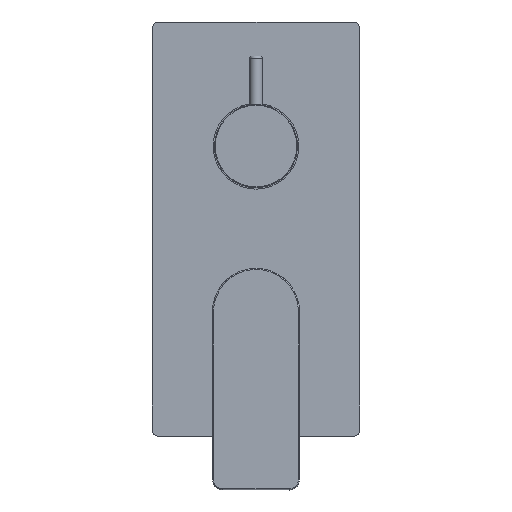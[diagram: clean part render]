
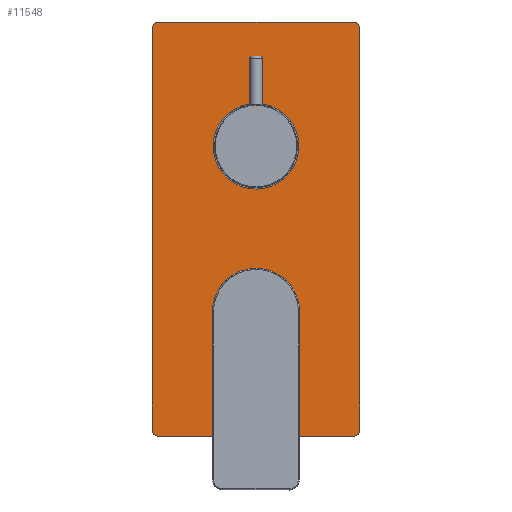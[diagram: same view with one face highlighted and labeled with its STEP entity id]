
A CAD part, top view. The second image highlights one B-rep face of the part: STEP entity #11548.
In plain terms, the highlighted planar face has unit normal (0, 0, 1).
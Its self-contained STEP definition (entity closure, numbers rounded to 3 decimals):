
#119 = CIRCLE ( 'NONE', #23812, 3. ) ;
#164 = DIRECTION ( 'NONE',  ( 1., 0., 0. ) ) ;
#198 = AXIS2_PLACEMENT_3D ( 'NONE', #11813, #3453, #22251 ) ;
#242 = AXIS2_PLACEMENT_3D ( 'NONE', #21033, #13211, #30085 ) ;
#1034 = FACE_OUTER_BOUND ( 'NONE', #8848, .T. ) ;
#1044 = CARTESIAN_POINT ( 'NONE',  ( -100., -50., 2. ) ) ;
#1346 = EDGE_CURVE ( 'NONE', #7636, #16303, #29182, .T. ) ;
#1487 = CARTESIAN_POINT ( 'NONE',  ( 100., -50., 2. ) ) ;
#1982 = AXIS2_PLACEMENT_3D ( 'NONE', #31303, #13385, #2077 ) ;
#2077 = DIRECTION ( 'NONE',  ( 1., 0., 0. ) ) ;
#2204 = VECTOR ( 'NONE', #11767, 1000. ) ;
#2275 = DIRECTION ( 'NONE',  ( 1., 0., 0. ) ) ;
#2468 = ORIENTED_EDGE ( 'NONE', *, *, #7712, .T. ) ;
#2810 = ORIENTED_EDGE ( 'NONE', *, *, #23455, .T. ) ;
#3174 = CARTESIAN_POINT ( 'NONE',  ( 100., 47., 2. ) ) ;
#3363 = AXIS2_PLACEMENT_3D ( 'NONE', #5016, #20685, #164 ) ;
#3453 = DIRECTION ( 'NONE',  ( 0., 0., 1. ) ) ;
#4903 = CARTESIAN_POINT ( 'NONE',  ( -97., 50., 2. ) ) ;
#4993 = CARTESIAN_POINT ( 'NONE',  ( 60.7, 0., 2. ) ) ;
#5016 = CARTESIAN_POINT ( 'NONE',  ( -40., 0., 2. ) ) ;
#5190 = EDGE_CURVE ( 'NONE', #30223, #7636, #15054, .T. ) ;
#6437 = CIRCLE ( 'NONE', #16459, 3. ) ;
#6770 = DIRECTION ( 'NONE',  ( 1., 0., 0. ) ) ;
#7636 = VERTEX_POINT ( 'NONE', #3174 ) ;
#7712 = EDGE_CURVE ( 'NONE', #22527, #13956, #6437, .T. ) ;
#7727 = CARTESIAN_POINT ( 'NONE',  ( -19.3, 0., 2. ) ) ;
#7740 = DIRECTION ( 'NONE',  ( 0., 0., 1. ) ) ;
#7893 = CARTESIAN_POINT ( 'NONE',  ( -100., 47., 2. ) ) ;
#8071 = EDGE_CURVE ( 'NONE', #15617, #15306, #16483, .T. ) ;
#8848 = EDGE_LOOP ( 'NONE', ( #28386, #2468, #2810, #15278, #18150, #10150, #31381, #32450 ) ) ;
#8852 = FACE_BOUND ( 'NONE', #22860, .T. ) ;
#9380 = CARTESIAN_POINT ( 'NONE',  ( 40., 0., 2. ) ) ;
#9466 = EDGE_CURVE ( 'NONE', #30162, #9608, #11829, .T. ) ;
#9505 = VERTEX_POINT ( 'NONE', #14612 ) ;
#9608 = VERTEX_POINT ( 'NONE', #28155 ) ;
#9827 = DIRECTION ( 'NONE',  ( 1., 0., 0. ) ) ;
#10150 = ORIENTED_EDGE ( 'NONE', *, *, #18987, .T. ) ;
#10695 = ORIENTED_EDGE ( 'NONE', *, *, #9466, .F. ) ;
#11548 = ADVANCED_FACE ( 'NONE', ( #8852, #1034, #27106 ), #27285, .T. ) ;
#11649 = DIRECTION ( 'NONE',  ( 0., -1., 0. ) ) ;
#11712 = CARTESIAN_POINT ( 'NONE',  ( -60.7, 0., 2. ) ) ;
#11767 = DIRECTION ( 'NONE',  ( 0., 1., 0. ) ) ;
#11813 = CARTESIAN_POINT ( 'NONE',  ( 0., 0., 2. ) ) ;
#11829 = CIRCLE ( 'NONE', #13495, 20.7 ) ;
#12429 = VERTEX_POINT ( 'NONE', #28214 ) ;
#12523 = LINE ( 'NONE', #15136, #27206 ) ;
#13146 = AXIS2_PLACEMENT_3D ( 'NONE', #16705, #29923, #21579 ) ;
#13211 = DIRECTION ( 'NONE',  ( 0., 0., 1. ) ) ;
#13385 = DIRECTION ( 'NONE',  ( 0., 0., 1. ) ) ;
#13495 = AXIS2_PLACEMENT_3D ( 'NONE', #9380, #22605, #6770 ) ;
#13956 = VERTEX_POINT ( 'NONE', #7893 ) ;
#14612 = CARTESIAN_POINT ( 'NONE',  ( -100., -47., 2. ) ) ;
#14807 = CARTESIAN_POINT ( 'NONE',  ( 40., 0., 2. ) ) ;
#15054 = LINE ( 'NONE', #30211, #2204 ) ;
#15136 = CARTESIAN_POINT ( 'NONE',  ( 100., 50., 2. ) ) ;
#15278 = ORIENTED_EDGE ( 'NONE', *, *, #30579, .T. ) ;
#15306 = VERTEX_POINT ( 'NONE', #7727 ) ;
#15617 = VERTEX_POINT ( 'NONE', #11712 ) ;
#16303 = VERTEX_POINT ( 'NONE', #29376 ) ;
#16408 = EDGE_CURVE ( 'NONE', #12429, #28197, #29899, .T. ) ;
#16417 = EDGE_LOOP ( 'NONE', ( #25591, #10695 ) ) ;
#16459 = AXIS2_PLACEMENT_3D ( 'NONE', #24219, #25759, #30974 ) ;
#16483 = CIRCLE ( 'NONE', #13146, 20.7 ) ;
#16705 = CARTESIAN_POINT ( 'NONE',  ( -40., 0., 2. ) ) ;
#16757 = VECTOR ( 'NONE', #11649, 1000. ) ;
#17990 = CIRCLE ( 'NONE', #242, 3. ) ;
#18150 = ORIENTED_EDGE ( 'NONE', *, *, #16408, .T. ) ;
#18348 = DIRECTION ( 'NONE',  ( 1., 0., 0. ) ) ;
#18987 = EDGE_CURVE ( 'NONE', #28197, #30223, #17990, .T. ) ;
#19507 = AXIS2_PLACEMENT_3D ( 'NONE', #14807, #20710, #2275 ) ;
#20685 = DIRECTION ( 'NONE',  ( 0., 0., 1. ) ) ;
#20710 = DIRECTION ( 'NONE',  ( 0., 0., 1. ) ) ;
#21033 = CARTESIAN_POINT ( 'NONE',  ( 97., -47., 2. ) ) ;
#21579 = DIRECTION ( 'NONE',  ( 1., 0., 0. ) ) ;
#22251 = DIRECTION ( 'NONE',  ( 1., 0., 0. ) ) ;
#22527 = VERTEX_POINT ( 'NONE', #4903 ) ;
#22605 = DIRECTION ( 'NONE',  ( 0., 0., 1. ) ) ;
#22860 = EDGE_LOOP ( 'NONE', ( #24734, #25275 ) ) ;
#23020 = EDGE_CURVE ( 'NONE', #9608, #30162, #32860, .T. ) ;
#23455 = EDGE_CURVE ( 'NONE', #13956, #9505, #24851, .T. ) ;
#23812 = AXIS2_PLACEMENT_3D ( 'NONE', #31569, #7740, #18348 ) ;
#23918 = CIRCLE ( 'NONE', #3363, 20.7 ) ;
#24219 = CARTESIAN_POINT ( 'NONE',  ( -97., 47., 2. ) ) ;
#24734 = ORIENTED_EDGE ( 'NONE', *, *, #8071, .F. ) ;
#24851 = LINE ( 'NONE', #1044, #16757 ) ;
#25275 = ORIENTED_EDGE ( 'NONE', *, *, #27811, .F. ) ;
#25591 = ORIENTED_EDGE ( 'NONE', *, *, #23020, .F. ) ;
#25759 = DIRECTION ( 'NONE',  ( 0., 0., 1. ) ) ;
#26073 = DIRECTION ( 'NONE',  ( -1., 0., 0. ) ) ;
#27106 = FACE_BOUND ( 'NONE', #16417, .T. ) ;
#27206 = VECTOR ( 'NONE', #26073, 1000. ) ;
#27285 = PLANE ( 'NONE',  #198 ) ;
#27811 = EDGE_CURVE ( 'NONE', #15306, #15617, #23918, .T. ) ;
#28155 = CARTESIAN_POINT ( 'NONE',  ( 19.3, 0., 2. ) ) ;
#28197 = VERTEX_POINT ( 'NONE', #28286 ) ;
#28214 = CARTESIAN_POINT ( 'NONE',  ( -97., -50., 2. ) ) ;
#28286 = CARTESIAN_POINT ( 'NONE',  ( 97., -50., 2. ) ) ;
#28386 = ORIENTED_EDGE ( 'NONE', *, *, #33600, .T. ) ;
#29182 = CIRCLE ( 'NONE', #1982, 3. ) ;
#29376 = CARTESIAN_POINT ( 'NONE',  ( 97., 50., 2. ) ) ;
#29899 = LINE ( 'NONE', #1487, #33923 ) ;
#29923 = DIRECTION ( 'NONE',  ( 0., 0., 1. ) ) ;
#30085 = DIRECTION ( 'NONE',  ( 1., 0., 0. ) ) ;
#30162 = VERTEX_POINT ( 'NONE', #4993 ) ;
#30211 = CARTESIAN_POINT ( 'NONE',  ( 100., -50., 2. ) ) ;
#30223 = VERTEX_POINT ( 'NONE', #32315 ) ;
#30579 = EDGE_CURVE ( 'NONE', #9505, #12429, #119, .T. ) ;
#30974 = DIRECTION ( 'NONE',  ( 1., 0., 0. ) ) ;
#31303 = CARTESIAN_POINT ( 'NONE',  ( 97., 47., 2. ) ) ;
#31381 = ORIENTED_EDGE ( 'NONE', *, *, #5190, .T. ) ;
#31569 = CARTESIAN_POINT ( 'NONE',  ( -97., -47., 2. ) ) ;
#32315 = CARTESIAN_POINT ( 'NONE',  ( 100., -47., 2. ) ) ;
#32450 = ORIENTED_EDGE ( 'NONE', *, *, #1346, .T. ) ;
#32860 = CIRCLE ( 'NONE', #19507, 20.7 ) ;
#33600 = EDGE_CURVE ( 'NONE', #16303, #22527, #12523, .T. ) ;
#33923 = VECTOR ( 'NONE', #9827, 1000. ) ;
